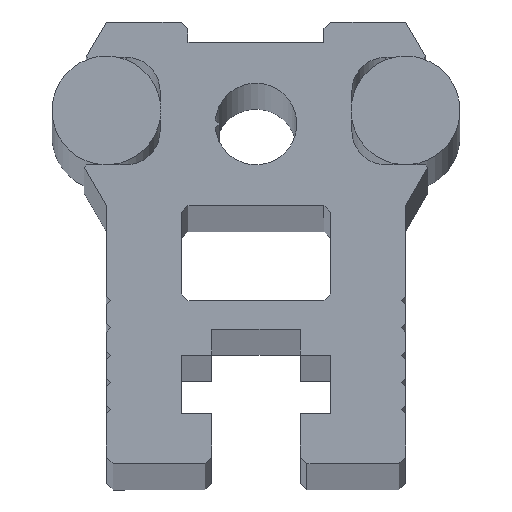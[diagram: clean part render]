
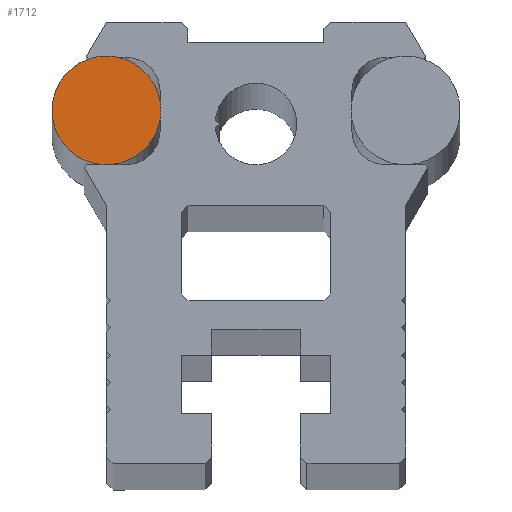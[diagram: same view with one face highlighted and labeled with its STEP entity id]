
A CAD part, top view. The second image highlights one B-rep face of the part: STEP entity #1712.
In plain terms, the highlighted planar face has unit normal (0, 0, 1).
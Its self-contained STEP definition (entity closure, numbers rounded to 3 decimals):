
#166 = VERTEX_POINT ( 'NONE', #1919 ) ;
#168 = EDGE_CURVE ( 'NONE', #169, #166, #1918, .T. ) ;
#169 = VERTEX_POINT ( 'NONE', #1913 ) ;
#180 = VERTEX_POINT ( 'NONE', #1824 ) ;
#182 = EDGE_CURVE ( 'NONE', #212, #180, #1823, .T. ) ;
#209 = EDGE_CURVE ( 'NONE', #211, #212, #2048, .T. ) ;
#211 = VERTEX_POINT ( 'NONE', #2043 ) ;
#212 = VERTEX_POINT ( 'NONE', #2042 ) ;
#267 = VERTEX_POINT ( 'NONE', #2109 ) ;
#269 = EDGE_CURVE ( 'NONE', #270, #267, #2108, .T. ) ;
#270 = VERTEX_POINT ( 'NONE', #2103 ) ;
#899 = DIRECTION ( 'NONE',  ( 1., 0., 0. ) ) ;
#900 = DIRECTION ( 'NONE',  ( 0., 0., 1. ) ) ;
#901 = AXIS2_PLACEMENT_3D ( 'NONE', #907, #900, #899 ) ;
#902 = CIRCLE ( 'NONE', #901, 4. ) ;
#907 = CARTESIAN_POINT ( 'NONE',  ( -11., 26., -1.5 ) ) ;
#910 = DIRECTION ( 'NONE',  ( 1., 0., 0. ) ) ;
#911 = DIRECTION ( 'NONE',  ( 0., 0., 1. ) ) ;
#912 = CARTESIAN_POINT ( 'NONE',  ( -11., 26., -1.5 ) ) ;
#913 = AXIS2_PLACEMENT_3D ( 'NONE', #912, #911, #910 ) ;
#988 = DIRECTION ( 'NONE',  ( 1., 0., 0. ) ) ;
#989 = DIRECTION ( 'NONE',  ( 0., 0., 1. ) ) ;
#990 = CARTESIAN_POINT ( 'NONE',  ( -11., 26., -1.5 ) ) ;
#991 = AXIS2_PLACEMENT_3D ( 'NONE', #990, #989, #988 ) ;
#992 = CIRCLE ( 'NONE', #991, 4. ) ;
#1009 = PLANE ( 'NONE',  #913 ) ;
#1010 = FACE_OUTER_BOUND ( 'NONE', #1713, .T. ) ;
#1011 = DIRECTION ( 'NONE',  ( 1., 0., 0. ) ) ;
#1012 = DIRECTION ( 'NONE',  ( 0., 0., 1. ) ) ;
#1013 = CARTESIAN_POINT ( 'NONE',  ( -11., 26., -1.5 ) ) ;
#1014 = AXIS2_PLACEMENT_3D ( 'NONE', #1013, #1012, #1011 ) ;
#1019 = CIRCLE ( 'NONE', #1014, 4. ) ;
#1617 = ORIENTED_EDGE ( 'NONE', *, *, #209, .T. ) ;
#1709 = EDGE_CURVE ( 'NONE', #267, #169, #1019, .T. ) ;
#1712 = ADVANCED_FACE ( 'NONE', ( #1010 ), #1009, .T. ) ;
#1713 = EDGE_LOOP ( 'NONE', ( #1714, #1727, #1728, #1729, #1730, #1731, #1617 ) ) ;
#1714 = ORIENTED_EDGE ( 'NONE', *, *, #182, .T. ) ;
#1720 = EDGE_CURVE ( 'NONE', #166, #211, #902, .T. ) ;
#1727 = ORIENTED_EDGE ( 'NONE', *, *, #1752, .T. ) ;
#1728 = ORIENTED_EDGE ( 'NONE', *, *, #269, .T. ) ;
#1729 = ORIENTED_EDGE ( 'NONE', *, *, #1709, .T. ) ;
#1730 = ORIENTED_EDGE ( 'NONE', *, *, #168, .T. ) ;
#1731 = ORIENTED_EDGE ( 'NONE', *, *, #1720, .T. ) ;
#1752 = EDGE_CURVE ( 'NONE', #180, #270, #992, .T. ) ;
#1819 = DIRECTION ( 'NONE',  ( 1., 0., 0. ) ) ;
#1820 = DIRECTION ( 'NONE',  ( 0., 0., 1. ) ) ;
#1821 = CARTESIAN_POINT ( 'NONE',  ( -11., 26., -1.5 ) ) ;
#1822 = AXIS2_PLACEMENT_3D ( 'NONE', #1821, #1820, #1819 ) ;
#1823 = CIRCLE ( 'NONE', #1822, 4. ) ;
#1824 = CARTESIAN_POINT ( 'NONE',  ( -10.111, 29.9, -1.5 ) ) ;
#1846 = CARTESIAN_POINT ( 'NONE',  ( -11., 26., -1.5 ) ) ;
#1913 = CARTESIAN_POINT ( 'NONE',  ( -10.75, 22.008, -1.5 ) ) ;
#1914 = DIRECTION ( 'NONE',  ( 1., 0., 0. ) ) ;
#1915 = DIRECTION ( 'NONE',  ( 0., 0., 1. ) ) ;
#1916 = CARTESIAN_POINT ( 'NONE',  ( -11., 26., -1.5 ) ) ;
#1917 = AXIS2_PLACEMENT_3D ( 'NONE', #1916, #1915, #1914 ) ;
#1918 = CIRCLE ( 'NONE', #1917, 4. ) ;
#1919 = CARTESIAN_POINT ( 'NONE',  ( -7.05, 25.37, -1.5 ) ) ;
#2042 = CARTESIAN_POINT ( 'NONE',  ( -7.05, 26.63, -1.5 ) ) ;
#2043 = CARTESIAN_POINT ( 'NONE',  ( -7., 26., -1.5 ) ) ;
#2045 = DIRECTION ( 'NONE',  ( 1., 0., 0. ) ) ;
#2046 = DIRECTION ( 'NONE',  ( 0., 0., 1. ) ) ;
#2047 = AXIS2_PLACEMENT_3D ( 'NONE', #1846, #2046, #2045 ) ;
#2048 = CIRCLE ( 'NONE', #2047, 4. ) ;
#2103 = CARTESIAN_POINT ( 'NONE',  ( -12.324, 29.775, -1.5 ) ) ;
#2104 = DIRECTION ( 'NONE',  ( 1., 0., 0. ) ) ;
#2105 = DIRECTION ( 'NONE',  ( 0., 0., 1. ) ) ;
#2106 = CARTESIAN_POINT ( 'NONE',  ( -11., 26., -1.5 ) ) ;
#2107 = AXIS2_PLACEMENT_3D ( 'NONE', #2106, #2105, #2104 ) ;
#2108 = CIRCLE ( 'NONE', #2107, 4. ) ;
#2109 = CARTESIAN_POINT ( 'NONE',  ( -11.25, 22.008, -1.5 ) ) ;
